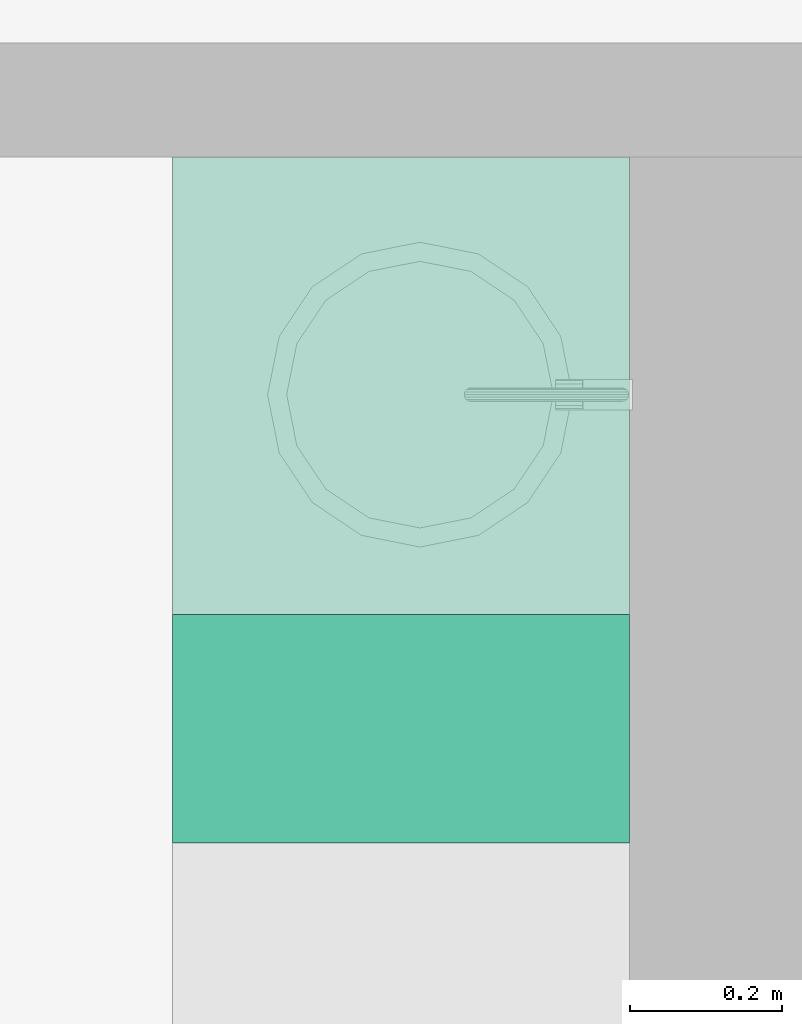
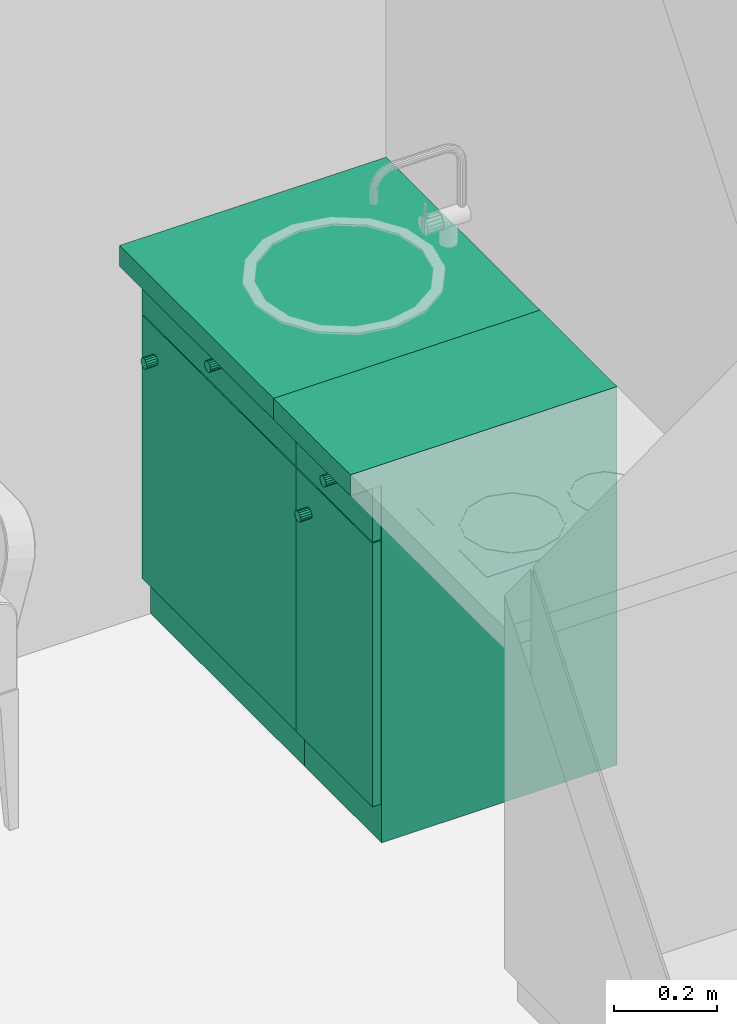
# One storey, part 42 of 165: 2 flow terminals.
"""IFC2X3 building model written with IfcOpenShell, lengths in millimetres."""

from ifc_helpers import new_model, entity, si_unit, converted_unit, money_unit, direction, frame, origin_with_axes, place, context, subcontext, project, spatial, faceted_brep, source, transform, mapped, material, material_list, type_object, element, save


model = new_model("IFC2X3")

# Units and contexts
model_context = context("Model", 3, precision=1e-05, world=origin_with_axes(), true_north=direction((0.0, 1.0)))
body_context = subcontext(model_context, "Body", "Model", "MODEL_VIEW")
ifc_project = project(units=[si_unit("LENGTHUNIT", "METRE", prefix="MILLI"), si_unit("AREAUNIT", "SQUARE_METRE"), si_unit("VOLUMEUNIT", "CUBIC_METRE"), converted_unit("PLANEANGLEUNIT", "DEGREE", entity("IfcPlaneAngleMeasure", 0.0174532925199), si_unit("PLANEANGLEUNIT", "RADIAN"), dimensions=[0, 0, 0, 0, 0, 0, 0]), si_unit("SOLIDANGLEUNIT", "STERADIAN"), money_unit("USD"), converted_unit("TIMEUNIT", "Year", entity("IfcTimeMeasure", 31556926.0), si_unit("TIMEUNIT", "SECOND"), dimensions=[0, 0, 0, 0, 0, 0, 0]), si_unit("MASSUNIT", "GRAM"), si_unit("THERMODYNAMICTEMPERATUREUNIT", "DEGREE_CELSIUS"), si_unit("LUMINOUSINTENSITYUNIT", "LUMEN")], contexts=[model_context])

# Site, building, storey
site_placement = place(None, origin_with_axes())
site = spatial("IfcSite", under=ifc_project, at=site_placement, Name="Site", CompositionType="ELEMENT")
building_placement = place(site_placement, origin_with_axes())
building = spatial("IfcBuilding", under=site, at=building_placement, Name="Building", CompositionType="ELEMENT")
storey_placement = place(building_placement, frame((0.0, 0.0, 6300.0), z_axis=(0.0, 0.0, 1.0), x_axis=(1.0, 0.0, 0.0)))
storey = spatial("IfcBuildingStorey", under=building, at=storey_placement, Name="4KORRUS", CompositionType="ELEMENT", Elevation=6300.0)

# Flow terminals
ifc_material = material(Name="Background")
ifc_material_list = material_list([ifc_material])
sanitary_terminal_type = type_object("IfcSanitaryTerminalType", Name="Cabinet Base Single Door 19", PredefinedType="SINK")
shared_shape_1 = source(origin_with_axes(), body_context, "Body", "Brep", [
    faceted_brep([(-20.0, 70.0, 710.0), (-20.0, 70.0, 730.0), (-580.0, 70.0, 730.0), (-580.0, 70.0, 710.0), (-20.0, 580.0, 710.0), (-20.0, 580.0, 730.0), (-580.0, 580.0, 730.0), (-580.0, 580.0, 710.0)], [[[0, 1, 2, 3]], [[4, 5, 1, 0]], [[1, 5, 6, 2]], [[3, 2, 6, 7]], [[0, 3, 7, 4]], [[7, 6, 5, 4]]]),
    faceted_brep([(0.0, 70.0, 0.0), (0.0, 70.0, 90.0), (-600.0, 70.0, 90.0), (-600.0, 70.0, 0.0), (0.0, 600.0, 0.0), (0.0, 600.0, 90.0), (-600.0, 600.0, 90.0), (-600.0, 600.0, 0.0)], [[[0, 1, 2, 3]], [[4, 5, 1, 0]], [[1, 5, 6, 2]], [[3, 2, 6, 7]], [[0, 3, 7, 4]], [[7, 6, 5, 4]]]),
    faceted_brep([(0.0, 70.0, 830.0), (0.0, 70.0, 850.0), (-20.0, 70.0, 850.0), (-20.0, 70.0, 830.0), (0.0, 600.0, 830.0), (0.0, 600.0, 850.0), (-20.0, 600.0, 850.0), (-580.0, 600.0, 850.0), (-600.0, 600.0, 850.0), (-600.0, 70.0, 850.0), (-580.0, 70.0, 850.0), (-580.0, 70.0, 830.0), (-600.0, 70.0, 830.0), (-600.0, 600.0, 830.0), (-580.0, 600.0, 830.0), (-20.0, 600.0, 830.0)], [[[0, 1, 2, 3]], [[4, 5, 1, 0]], [[1, 5, 6, 7, 8, 9, 10, 2]], [[3, 2, 10, 11]], [[0, 3, 11, 12, 13, 14, 15, 4]], [[15, 6, 5, 4]], [[14, 7, 6, 15]], [[13, 8, 7, 14]], [[12, 9, 8, 13]], [[11, 10, 9, 12]]]),
    faceted_brep([(0.0, 70.0, 90.0), (0.0, 70.0, 110.0), (-20.0, 70.0, 110.0), (-20.0, 70.0, 90.0), (0.0, 600.0, 90.0), (0.0, 600.0, 110.0), (-20.0, 600.0, 110.0), (-580.0, 600.0, 110.0), (-600.0, 600.0, 110.0), (-600.0, 70.0, 110.0), (-580.0, 70.0, 110.0), (-580.0, 70.0, 90.0), (-600.0, 70.0, 90.0), (-600.0, 600.0, 90.0), (-580.0, 600.0, 90.0), (-20.0, 600.0, 90.0)], [[[0, 1, 2, 3]], [[4, 5, 1, 0]], [[1, 5, 6, 7, 8, 9, 10, 2]], [[3, 2, 10, 11]], [[0, 3, 11, 12, 13, 14, 15, 4]], [[15, 6, 5, 4]], [[14, 7, 6, 15]], [[13, 8, 7, 14]], [[12, 9, 8, 13]], [[11, 10, 9, 12]]]),
    faceted_brep([(0.0, 70.0, 110.0), (0.0, 70.0, 830.0), (-20.0, 70.0, 830.0), (-20.0, 70.0, 110.0), (0.0, 600.0, 110.0), (0.0, 600.0, 830.0), (-600.0, 600.0, 830.0), (-600.0, 70.0, 830.0), (-580.0, 70.0, 830.0), (-580.0, 580.0, 830.0), (-20.0, 580.0, 830.0), (-20.0, 580.0, 110.0), (-580.0, 580.0, 110.0), (-580.0, 70.0, 110.0), (-600.0, 70.0, 110.0), (-600.0, 600.0, 110.0)], [[[0, 1, 2, 3]], [[4, 5, 1, 0]], [[1, 5, 6, 7, 8, 9, 10, 2]], [[3, 2, 10, 11]], [[0, 3, 11, 12, 13, 14, 15, 4]], [[15, 6, 5, 4]], [[14, 7, 6, 15]], [[13, 8, 7, 14]], [[12, 9, 8, 13]], [[11, 10, 9, 12]]]),
    faceted_brep([(-580.0, 70.0, 385.0), (-580.0, 70.0, 405.0), (-580.0, 580.0, 405.0), (-580.0, 580.0, 385.0), (-20.0, 70.0, 385.0), (-20.0, 70.0, 405.0), (-20.0, 580.0, 405.0), (-20.0, 580.0, 385.0)], [[[0, 1, 2, 3]], [[4, 5, 1, 0]], [[1, 5, 6, 2]], [[3, 2, 6, 7]], [[0, 3, 7, 4]], [[7, 6, 5, 4]]]),
    faceted_brep([(0.0, 0.0, 850.0), (0.0, 0.0, 900.0), (-600.0, 0.0, 900.0), (-600.0, 0.0, 850.0), (0.0, 600.0, 850.0), (0.0, 600.0, 900.0), (-600.0, 600.0, 900.0), (-600.0, 600.0, 850.0)], [[[0, 1, 2, 3]], [[4, 5, 1, 0]], [[1, 5, 6, 2]], [[3, 2, 6, 7]], [[0, 3, 7, 4]], [[7, 6, 5, 4]]]),
    faceted_brep([(-1.5, 70.0, 721.5), (-1.5, 50.0, 721.5), (-598.5, 50.0, 721.5), (-598.5, 70.0, 721.5), (-1.5, 70.0, 848.5), (-1.5, 50.0, 848.5), (-598.5, 50.0, 848.5), (-598.5, 70.0, 848.5)], [[[0, 1, 2, 3]], [[4, 5, 1, 0]], [[1, 5, 6, 2]], [[3, 2, 6, 7]], [[0, 3, 7, 4]], [[7, 6, 5, 4]]]),
    faceted_brep([(-295.408, 50.0, 773.913), (-300.0, 50.0, 773.0), (-304.592, 50.0, 773.913), (-308.485, 50.0, 776.515), (-311.087, 50.0, 780.408), (-312.0, 50.0, 785.0), (-311.087, 50.0, 789.592), (-308.485, 50.0, 793.485), (-304.592, 50.0, 796.087), (-300.0, 50.0, 797.0), (-295.408, 50.0, 796.087), (-291.515, 50.0, 793.485), (-288.913, 50.0, 789.592), (-288.0, 50.0, 785.0), (-288.913, 50.0, 780.408), (-291.515, 50.0, 776.515), (-295.408, 25.0, 773.913), (-300.0, 25.0, 773.0), (-304.592, 25.0, 773.913), (-308.485, 25.0, 776.515), (-311.087, 25.0, 780.408), (-312.0, 25.0, 785.0), (-311.087, 25.0, 789.592), (-308.485, 25.0, 793.485), (-304.592, 25.0, 796.087), (-300.0, 25.0, 797.0), (-295.408, 25.0, 796.087), (-291.515, 25.0, 793.485), (-288.913, 25.0, 789.592), (-288.0, 25.0, 785.0), (-288.913, 25.0, 780.408), (-291.515, 25.0, 776.515)], [[[0, 1, 2, 3, 4, 5, 6, 7, 8, 9, 10, 11, 12, 13, 14, 15]], [[0, 16, 17, 1]], [[1, 17, 18, 2]], [[2, 18, 19, 3]], [[3, 19, 20, 4]], [[4, 20, 21, 5]], [[5, 21, 22, 6]], [[6, 22, 23, 7]], [[7, 23, 24, 8]], [[8, 24, 25, 9]], [[9, 25, 26, 10]], [[10, 26, 27, 11]], [[11, 27, 28, 12]], [[12, 28, 29, 13]], [[13, 29, 30, 14]], [[14, 30, 31, 15]], [[15, 31, 16, 0]], [[16, 31, 30, 29, 28, 27, 26, 25, 24, 23, 22, 21, 20, 19, 18, 17]]]),
    faceted_brep([(-1.5, 70.0, 91.5), (-1.5, 50.0, 91.5), (-598.5, 50.0, 91.5), (-598.5, 70.0, 91.5), (-1.5, 70.0, 718.5), (-1.5, 50.0, 718.5), (-598.5, 50.0, 718.5), (-598.5, 70.0, 718.5)], [[[0, 1, 2, 3]], [[4, 5, 1, 0]], [[1, 5, 6, 2]], [[3, 2, 6, 7]], [[0, 3, 7, 4]], [[7, 6, 5, 4]]]),
    faceted_brep([(-559.587, 50.0, 636.908), (-560.5, 50.0, 641.5), (-559.587, 50.0, 646.092), (-556.985, 50.0, 649.985), (-553.092, 50.0, 652.587), (-548.5, 50.0, 653.5), (-543.908, 50.0, 652.587), (-540.015, 50.0, 649.985), (-537.413, 50.0, 646.092), (-536.5, 50.0, 641.5), (-537.413, 50.0, 636.908), (-540.015, 50.0, 633.015), (-543.908, 50.0, 630.413), (-548.5, 50.0, 629.5), (-553.092, 50.0, 630.413), (-556.985, 50.0, 633.015), (-559.587, 25.0, 636.908), (-560.5, 25.0, 641.5), (-559.587, 25.0, 646.092), (-556.985, 25.0, 649.985), (-553.092, 25.0, 652.587), (-548.5, 25.0, 653.5), (-543.908, 25.0, 652.587), (-540.015, 25.0, 649.985), (-537.413, 25.0, 646.092), (-536.5, 25.0, 641.5), (-537.413, 25.0, 636.908), (-540.015, 25.0, 633.015), (-543.908, 25.0, 630.413), (-548.5, 25.0, 629.5), (-553.092, 25.0, 630.413), (-556.985, 25.0, 633.015)], [[[0, 1, 2, 3, 4, 5, 6, 7, 8, 9, 10, 11, 12, 13, 14, 15]], [[0, 16, 17, 1]], [[1, 17, 18, 2]], [[2, 18, 19, 3]], [[3, 19, 20, 4]], [[4, 20, 21, 5]], [[5, 21, 22, 6]], [[6, 22, 23, 7]], [[7, 23, 24, 8]], [[8, 24, 25, 9]], [[9, 25, 26, 10]], [[10, 26, 27, 11]], [[11, 27, 28, 12]], [[12, 28, 29, 13]], [[13, 29, 30, 14]], [[14, 30, 31, 15]], [[15, 31, 16, 0]], [[16, 31, 30, 29, 28, 27, 26, 25, 24, 23, 22, 21, 20, 19, 18, 17]]]),
])
flow_terminal_1_placement = place(storey_placement, frame((5109.70329669, -13789.2398994, 0.0), z_axis=(0.0, 0.0, 1.0), x_axis=(0.0, -1.0, 0.0)))
element("IfcFlowTerminal", 1, at=flow_terminal_1_placement, inside=storey, type_object=sanitary_terminal_type, material=ifc_material_list, Name="FU - 007", context=body_context, shape_type="MappedRepresentation", body=[
    mapped(shared_shape_1, transform((0.0, 0.0, 0.0))),
])
shared_shape_2 = source(origin_with_axes(), body_context, "Body", "Brep", [
    faceted_brep([(-20.0, 70.0, 710.0), (-20.0, 70.0, 730.0), (-280.0, 70.0, 730.0), (-280.0, 70.0, 710.0), (-20.0, 580.0, 710.0), (-20.0, 580.0, 730.0), (-280.0, 580.0, 730.0), (-280.0, 580.0, 710.0)], [[[0, 1, 2, 3]], [[4, 5, 1, 0]], [[1, 5, 6, 2]], [[3, 2, 6, 7]], [[0, 3, 7, 4]], [[7, 6, 5, 4]]]),
    faceted_brep([(0.0, 70.0, 0.0), (0.0, 70.0, 90.0), (-300.0, 70.0, 90.0), (-300.0, 70.0, 0.0), (0.0, 600.0, 0.0), (0.0, 600.0, 90.0), (-300.0, 600.0, 90.0), (-300.0, 600.0, 0.0)], [[[0, 1, 2, 3]], [[4, 5, 1, 0]], [[1, 5, 6, 2]], [[3, 2, 6, 7]], [[0, 3, 7, 4]], [[7, 6, 5, 4]]]),
    faceted_brep([(0.0, 70.0, 830.0), (0.0, 70.0, 850.0), (-20.0, 70.0, 850.0), (-20.0, 70.0, 830.0), (0.0, 600.0, 830.0), (0.0, 600.0, 850.0), (-20.0, 600.0, 850.0), (-280.0, 600.0, 850.0), (-300.0, 600.0, 850.0), (-300.0, 70.0, 850.0), (-280.0, 70.0, 850.0), (-280.0, 70.0, 830.0), (-300.0, 70.0, 830.0), (-300.0, 600.0, 830.0), (-280.0, 600.0, 830.0), (-20.0, 600.0, 830.0)], [[[0, 1, 2, 3]], [[4, 5, 1, 0]], [[1, 5, 6, 7, 8, 9, 10, 2]], [[3, 2, 10, 11]], [[0, 3, 11, 12, 13, 14, 15, 4]], [[15, 6, 5, 4]], [[14, 7, 6, 15]], [[13, 8, 7, 14]], [[12, 9, 8, 13]], [[11, 10, 9, 12]]]),
    faceted_brep([(0.0, 70.0, 90.0), (0.0, 70.0, 110.0), (-20.0, 70.0, 110.0), (-20.0, 70.0, 90.0), (0.0, 600.0, 90.0), (0.0, 600.0, 110.0), (-20.0, 600.0, 110.0), (-280.0, 600.0, 110.0), (-300.0, 600.0, 110.0), (-300.0, 70.0, 110.0), (-280.0, 70.0, 110.0), (-280.0, 70.0, 90.0), (-300.0, 70.0, 90.0), (-300.0, 600.0, 90.0), (-280.0, 600.0, 90.0), (-20.0, 600.0, 90.0)], [[[0, 1, 2, 3]], [[4, 5, 1, 0]], [[1, 5, 6, 7, 8, 9, 10, 2]], [[3, 2, 10, 11]], [[0, 3, 11, 12, 13, 14, 15, 4]], [[15, 6, 5, 4]], [[14, 7, 6, 15]], [[13, 8, 7, 14]], [[12, 9, 8, 13]], [[11, 10, 9, 12]]]),
    faceted_brep([(0.0, 70.0, 110.0), (0.0, 70.0, 830.0), (-20.0, 70.0, 830.0), (-20.0, 70.0, 110.0), (0.0, 600.0, 110.0), (0.0, 600.0, 830.0), (-300.0, 600.0, 830.0), (-300.0, 70.0, 830.0), (-280.0, 70.0, 830.0), (-280.0, 580.0, 830.0), (-20.0, 580.0, 830.0), (-20.0, 580.0, 110.0), (-280.0, 580.0, 110.0), (-280.0, 70.0, 110.0), (-300.0, 70.0, 110.0), (-300.0, 600.0, 110.0)], [[[0, 1, 2, 3]], [[4, 5, 1, 0]], [[1, 5, 6, 7, 8, 9, 10, 2]], [[3, 2, 10, 11]], [[0, 3, 11, 12, 13, 14, 15, 4]], [[15, 6, 5, 4]], [[14, 7, 6, 15]], [[13, 8, 7, 14]], [[12, 9, 8, 13]], [[11, 10, 9, 12]]]),
    faceted_brep([(-280.0, 70.0, 385.0), (-280.0, 70.0, 405.0), (-280.0, 580.0, 405.0), (-280.0, 580.0, 385.0), (-20.0, 70.0, 385.0), (-20.0, 70.0, 405.0), (-20.0, 580.0, 405.0), (-20.0, 580.0, 385.0)], [[[0, 1, 2, 3]], [[4, 5, 1, 0]], [[1, 5, 6, 2]], [[3, 2, 6, 7]], [[0, 3, 7, 4]], [[7, 6, 5, 4]]]),
    faceted_brep([(0.0, 0.0, 850.0), (0.0, 0.0, 900.0), (-300.0, 0.0, 900.0), (-300.0, 0.0, 850.0), (0.0, 600.0, 850.0), (0.0, 600.0, 900.0), (-300.0, 600.0, 900.0), (-300.0, 600.0, 850.0)], [[[0, 1, 2, 3]], [[4, 5, 1, 0]], [[1, 5, 6, 2]], [[3, 2, 6, 7]], [[0, 3, 7, 4]], [[7, 6, 5, 4]]]),
    faceted_brep([(-1.5, 70.0, 721.5), (-1.5, 50.0, 721.5), (-298.5, 50.0, 721.5), (-298.5, 70.0, 721.5), (-1.5, 70.0, 848.5), (-1.5, 50.0, 848.5), (-298.5, 50.0, 848.5), (-298.5, 70.0, 848.5)], [[[0, 1, 2, 3]], [[4, 5, 1, 0]], [[1, 5, 6, 2]], [[3, 2, 6, 7]], [[0, 3, 7, 4]], [[7, 6, 5, 4]]]),
    faceted_brep([(-145.408, 50.0, 773.913), (-150.0, 50.0, 773.0), (-154.592, 50.0, 773.913), (-158.485, 50.0, 776.515), (-161.087, 50.0, 780.408), (-162.0, 50.0, 785.0), (-161.087, 50.0, 789.592), (-158.485, 50.0, 793.485), (-154.592, 50.0, 796.087), (-150.0, 50.0, 797.0), (-145.408, 50.0, 796.087), (-141.515, 50.0, 793.485), (-138.913, 50.0, 789.592), (-138.0, 50.0, 785.0), (-138.913, 50.0, 780.408), (-141.515, 50.0, 776.515), (-145.408, 25.0, 773.913), (-150.0, 25.0, 773.0), (-154.592, 25.0, 773.913), (-158.485, 25.0, 776.515), (-161.087, 25.0, 780.408), (-162.0, 25.0, 785.0), (-161.087, 25.0, 789.592), (-158.485, 25.0, 793.485), (-154.592, 25.0, 796.087), (-150.0, 25.0, 797.0), (-145.408, 25.0, 796.087), (-141.515, 25.0, 793.485), (-138.913, 25.0, 789.592), (-138.0, 25.0, 785.0), (-138.913, 25.0, 780.408), (-141.515, 25.0, 776.515)], [[[0, 1, 2, 3, 4, 5, 6, 7, 8, 9, 10, 11, 12, 13, 14, 15]], [[0, 16, 17, 1]], [[1, 17, 18, 2]], [[2, 18, 19, 3]], [[3, 19, 20, 4]], [[4, 20, 21, 5]], [[5, 21, 22, 6]], [[6, 22, 23, 7]], [[7, 23, 24, 8]], [[8, 24, 25, 9]], [[9, 25, 26, 10]], [[10, 26, 27, 11]], [[11, 27, 28, 12]], [[12, 28, 29, 13]], [[13, 29, 30, 14]], [[14, 30, 31, 15]], [[15, 31, 16, 0]], [[16, 31, 30, 29, 28, 27, 26, 25, 24, 23, 22, 21, 20, 19, 18, 17]]]),
    faceted_brep([(-1.5, 70.0, 91.5), (-1.5, 50.0, 91.5), (-298.5, 50.0, 91.5), (-298.5, 70.0, 91.5), (-1.5, 70.0, 718.5), (-1.5, 50.0, 718.5), (-298.5, 50.0, 718.5), (-298.5, 70.0, 718.5)], [[[0, 1, 2, 3]], [[4, 5, 1, 0]], [[1, 5, 6, 2]], [[3, 2, 6, 7]], [[0, 3, 7, 4]], [[7, 6, 5, 4]]]),
    faceted_brep([(-259.587, 50.0, 636.908), (-260.5, 50.0, 641.5), (-259.587, 50.0, 646.092), (-256.985, 50.0, 649.985), (-253.092, 50.0, 652.587), (-248.5, 50.0, 653.5), (-243.908, 50.0, 652.587), (-240.015, 50.0, 649.985), (-237.413, 50.0, 646.092), (-236.5, 50.0, 641.5), (-237.413, 50.0, 636.908), (-240.015, 50.0, 633.015), (-243.908, 50.0, 630.413), (-248.5, 50.0, 629.5), (-253.092, 50.0, 630.413), (-256.985, 50.0, 633.015), (-259.587, 25.0, 636.908), (-260.5, 25.0, 641.5), (-259.587, 25.0, 646.092), (-256.985, 25.0, 649.985), (-253.092, 25.0, 652.587), (-248.5, 25.0, 653.5), (-243.908, 25.0, 652.587), (-240.015, 25.0, 649.985), (-237.413, 25.0, 646.092), (-236.5, 25.0, 641.5), (-237.413, 25.0, 636.908), (-240.015, 25.0, 633.015), (-243.908, 25.0, 630.413), (-248.5, 25.0, 629.5), (-253.092, 25.0, 630.413), (-256.985, 25.0, 633.015)], [[[0, 1, 2, 3, 4, 5, 6, 7, 8, 9, 10, 11, 12, 13, 14, 15]], [[0, 16, 17, 1]], [[1, 17, 18, 2]], [[2, 18, 19, 3]], [[3, 19, 20, 4]], [[4, 20, 21, 5]], [[5, 21, 22, 6]], [[6, 22, 23, 7]], [[7, 23, 24, 8]], [[8, 24, 25, 9]], [[9, 25, 26, 10]], [[10, 26, 27, 11]], [[11, 27, 28, 12]], [[12, 28, 29, 13]], [[13, 29, 30, 14]], [[14, 30, 31, 15]], [[15, 31, 16, 0]], [[16, 31, 30, 29, 28, 27, 26, 25, 24, 23, 22, 21, 20, 19, 18, 17]]]),
])
flow_terminal_2_placement = place(storey_placement, frame((5109.70329669, -14089.2398994, 0.0), z_axis=(0.0, 0.0, 1.0), x_axis=(0.0, -1.0, 0.0)))
element("IfcFlowTerminal", 2, at=flow_terminal_2_placement, inside=storey, type_object=sanitary_terminal_type, material=ifc_material_list, Name="FU - 007", context=body_context, shape_type="MappedRepresentation", body=[
    mapped(shared_shape_2, transform((0.0, 0.0, 0.0))),
])

save(model, "model.ifc")
